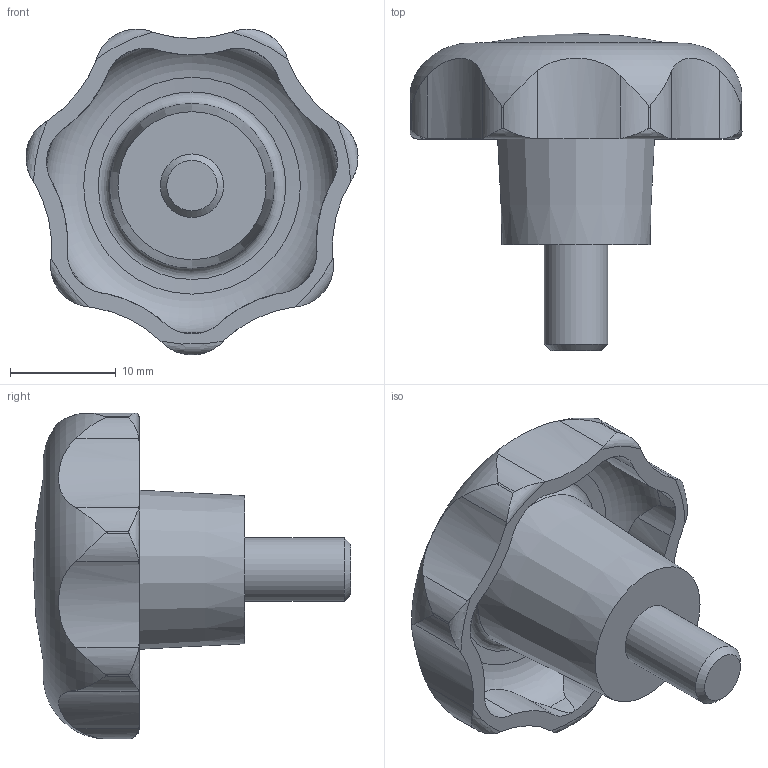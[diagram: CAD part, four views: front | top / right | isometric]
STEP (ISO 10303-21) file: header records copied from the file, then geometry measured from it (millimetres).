
FILE_DESCRIPTION( ( 'STEP AP203' ), '1' );
FILE_NAME( 'C:/Temp/Ganter_Step_05_03_2020/data/2_2/gn_6336_4/gn_6336_4_st/Star knob GN 6336.4-ST-32-M6-10.stp', '2020-03-05T12:07:19', ( 'License CC BY-ND 4.0' ), ( 'CADENAS' ), ' ', 'PARTsolutions', ' ' );
FILE_SCHEMA( ( 'CONFIG_CONTROL_DESIGN' ) );
Length unit declared in the file: millimetre
Products named in the file (1): _Star knob GN 6336.4-ST-32-M6-10
Bounding box: 31.39 x 30 x 30.81 mm (x, y, z)
Volume: 6084.6 mm3; surface area: 3364.6 mm2
Topology: 1 solids, 1 shells, 74 faces, 209 edges, 138 vertices
Faces by surface type: cylinder 50, torus 10, cone 10, plane 3, sphere 1
Full cylindrical faces by diameter (mm): 6 x1
Entity records: 3221 total; most frequent: CARTESIAN_POINT 1406, ORIENTED_EDGE 394, DIRECTION 336, EDGE_CURVE 197, AXIS2_PLACEMENT_3D 147, VERTEX_POINT 136, EDGE_LOOP 83, B_SPLINE_CURVE_WITH_KNOTS 83
